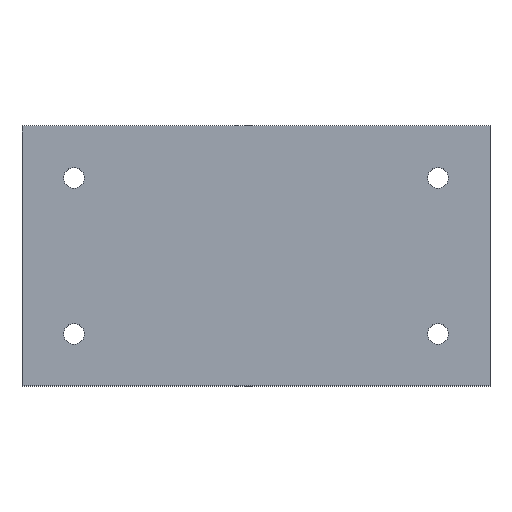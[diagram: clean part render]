
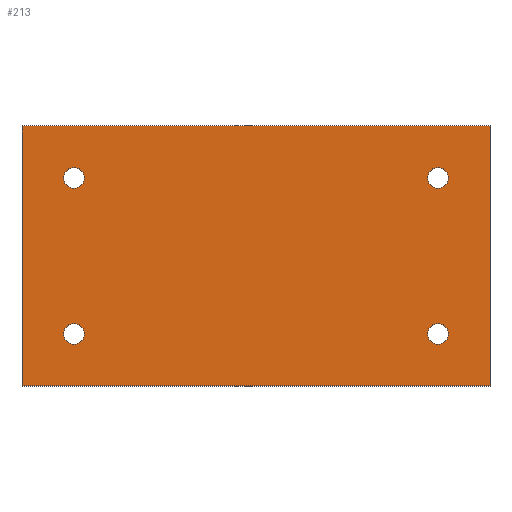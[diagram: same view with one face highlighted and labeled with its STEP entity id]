
A CAD part, top view. The second image highlights one B-rep face of the part: STEP entity #213.
In plain terms, the highlighted planar face has unit normal (0, 0, 1).
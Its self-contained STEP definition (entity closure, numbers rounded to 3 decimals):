
#24 = VERTEX_POINT('',#25);
#25 = CARTESIAN_POINT('',(-45.,-25.,5.));
#32 = PLANE('',#33);
#33 = AXIS2_PLACEMENT_3D('',#34,#35,#36);
#34 = CARTESIAN_POINT('',(-45.,-25.,0.));
#35 = DIRECTION('',(1.,0.,0.));
#36 = DIRECTION('',(0.,0.,1.));
#44 = PLANE('',#45);
#45 = AXIS2_PLACEMENT_3D('',#46,#47,#48);
#46 = CARTESIAN_POINT('',(-45.,-25.,0.));
#47 = DIRECTION('',(0.,1.,0.));
#48 = DIRECTION('',(0.,0.,1.));
#85 = VERTEX_POINT('',#86);
#86 = CARTESIAN_POINT('',(-45.,25.,5.));
#100 = PLANE('',#101);
#101 = AXIS2_PLACEMENT_3D('',#102,#103,#104);
#102 = CARTESIAN_POINT('',(-45.,25.,0.));
#103 = DIRECTION('',(0.,1.,0.));
#104 = DIRECTION('',(0.,0.,1.));
#112 = EDGE_CURVE('',#24,#85,#113,.T.);
#113 = SURFACE_CURVE('',#114,(#118,#125),.PCURVE_S1.);
#114 = LINE('',#115,#116);
#115 = CARTESIAN_POINT('',(-45.,-25.,5.));
#116 = VECTOR('',#117,1.);
#117 = DIRECTION('',(0.,1.,0.));
#118 = PCURVE('',#32,#119);
#119 = DEFINITIONAL_REPRESENTATION('',(#120),#124);
#120 = LINE('',#121,#122);
#121 = CARTESIAN_POINT('',(5.,0.));
#122 = VECTOR('',#123,1.);
#123 = DIRECTION('',(0.,-1.));
#124 = ( GEOMETRIC_REPRESENTATION_CONTEXT(2) 
PARAMETRIC_REPRESENTATION_CONTEXT() REPRESENTATION_CONTEXT('2D SPACE',''
  ) );
#125 = PCURVE('',#126,#131);
#126 = PLANE('',#127);
#127 = AXIS2_PLACEMENT_3D('',#128,#129,#130);
#128 = CARTESIAN_POINT('',(-45.,-25.,5.));
#129 = DIRECTION('',(0.,0.,1.));
#130 = DIRECTION('',(1.,0.,0.));
#131 = DEFINITIONAL_REPRESENTATION('',(#132),#136);
#132 = LINE('',#133,#134);
#133 = CARTESIAN_POINT('',(0.,0.));
#134 = VECTOR('',#135,1.);
#135 = DIRECTION('',(0.,1.));
#136 = ( GEOMETRIC_REPRESENTATION_CONTEXT(2) 
PARAMETRIC_REPRESENTATION_CONTEXT() REPRESENTATION_CONTEXT('2D SPACE',''
  ) );
#165 = EDGE_CURVE('',#24,#166,#168,.T.);
#166 = VERTEX_POINT('',#167);
#167 = CARTESIAN_POINT('',(45.,-25.,5.));
#168 = SURFACE_CURVE('',#169,(#173,#180),.PCURVE_S1.);
#169 = LINE('',#170,#171);
#170 = CARTESIAN_POINT('',(-45.,-25.,5.));
#171 = VECTOR('',#172,1.);
#172 = DIRECTION('',(1.,0.,0.));
#173 = PCURVE('',#44,#174);
#174 = DEFINITIONAL_REPRESENTATION('',(#175),#179);
#175 = LINE('',#176,#177);
#176 = CARTESIAN_POINT('',(5.,0.));
#177 = VECTOR('',#178,1.);
#178 = DIRECTION('',(0.,1.));
#179 = ( GEOMETRIC_REPRESENTATION_CONTEXT(2) 
PARAMETRIC_REPRESENTATION_CONTEXT() REPRESENTATION_CONTEXT('2D SPACE',''
  ) );
#180 = PCURVE('',#126,#181);
#181 = DEFINITIONAL_REPRESENTATION('',(#182),#186);
#182 = LINE('',#183,#184);
#183 = CARTESIAN_POINT('',(0.,0.));
#184 = VECTOR('',#185,1.);
#185 = DIRECTION('',(1.,0.));
#186 = ( GEOMETRIC_REPRESENTATION_CONTEXT(2) 
PARAMETRIC_REPRESENTATION_CONTEXT() REPRESENTATION_CONTEXT('2D SPACE',''
  ) );
#202 = PLANE('',#203);
#203 = AXIS2_PLACEMENT_3D('',#204,#205,#206);
#204 = CARTESIAN_POINT('',(45.,-25.,0.));
#205 = DIRECTION('',(1.,0.,0.));
#206 = DIRECTION('',(0.,0.,1.));
#213 = ADVANCED_FACE('',(#214,#262,#293,#324,#355),#126,.T.);
#214 = FACE_BOUND('',#215,.T.);
#215 = EDGE_LOOP('',(#216,#217,#218,#241));
#216 = ORIENTED_EDGE('',*,*,#112,.F.);
#217 = ORIENTED_EDGE('',*,*,#165,.T.);
#218 = ORIENTED_EDGE('',*,*,#219,.T.);
#219 = EDGE_CURVE('',#166,#220,#222,.T.);
#220 = VERTEX_POINT('',#221);
#221 = CARTESIAN_POINT('',(45.,25.,5.));
#222 = SURFACE_CURVE('',#223,(#227,#234),.PCURVE_S1.);
#223 = LINE('',#224,#225);
#224 = CARTESIAN_POINT('',(45.,-25.,5.));
#225 = VECTOR('',#226,1.);
#226 = DIRECTION('',(0.,1.,0.));
#227 = PCURVE('',#126,#228);
#228 = DEFINITIONAL_REPRESENTATION('',(#229),#233);
#229 = LINE('',#230,#231);
#230 = CARTESIAN_POINT('',(90.,0.));
#231 = VECTOR('',#232,1.);
#232 = DIRECTION('',(0.,1.));
#233 = ( GEOMETRIC_REPRESENTATION_CONTEXT(2) 
PARAMETRIC_REPRESENTATION_CONTEXT() REPRESENTATION_CONTEXT('2D SPACE',''
  ) );
#234 = PCURVE('',#202,#235);
#235 = DEFINITIONAL_REPRESENTATION('',(#236),#240);
#236 = LINE('',#237,#238);
#237 = CARTESIAN_POINT('',(5.,0.));
#238 = VECTOR('',#239,1.);
#239 = DIRECTION('',(0.,-1.));
#240 = ( GEOMETRIC_REPRESENTATION_CONTEXT(2) 
PARAMETRIC_REPRESENTATION_CONTEXT() REPRESENTATION_CONTEXT('2D SPACE',''
  ) );
#241 = ORIENTED_EDGE('',*,*,#242,.F.);
#242 = EDGE_CURVE('',#85,#220,#243,.T.);
#243 = SURFACE_CURVE('',#244,(#248,#255),.PCURVE_S1.);
#244 = LINE('',#245,#246);
#245 = CARTESIAN_POINT('',(-45.,25.,5.));
#246 = VECTOR('',#247,1.);
#247 = DIRECTION('',(1.,0.,0.));
#248 = PCURVE('',#126,#249);
#249 = DEFINITIONAL_REPRESENTATION('',(#250),#254);
#250 = LINE('',#251,#252);
#251 = CARTESIAN_POINT('',(0.,50.));
#252 = VECTOR('',#253,1.);
#253 = DIRECTION('',(1.,0.));
#254 = ( GEOMETRIC_REPRESENTATION_CONTEXT(2) 
PARAMETRIC_REPRESENTATION_CONTEXT() REPRESENTATION_CONTEXT('2D SPACE',''
  ) );
#255 = PCURVE('',#100,#256);
#256 = DEFINITIONAL_REPRESENTATION('',(#257),#261);
#257 = LINE('',#258,#259);
#258 = CARTESIAN_POINT('',(5.,0.));
#259 = VECTOR('',#260,1.);
#260 = DIRECTION('',(0.,1.));
#261 = ( GEOMETRIC_REPRESENTATION_CONTEXT(2) 
PARAMETRIC_REPRESENTATION_CONTEXT() REPRESENTATION_CONTEXT('2D SPACE',''
  ) );
#262 = FACE_BOUND('',#263,.T.);
#263 = EDGE_LOOP('',(#264));
#264 = ORIENTED_EDGE('',*,*,#265,.F.);
#265 = EDGE_CURVE('',#266,#266,#268,.T.);
#266 = VERTEX_POINT('',#267);
#267 = CARTESIAN_POINT('',(-33.,-15.,5.));
#268 = SURFACE_CURVE('',#269,(#274,#281),.PCURVE_S1.);
#269 = CIRCLE('',#270,2.);
#270 = AXIS2_PLACEMENT_3D('',#271,#272,#273);
#271 = CARTESIAN_POINT('',(-35.,-15.,5.));
#272 = DIRECTION('',(0.,0.,1.));
#273 = DIRECTION('',(1.,0.,-0.));
#274 = PCURVE('',#126,#275);
#275 = DEFINITIONAL_REPRESENTATION('',(#276),#280);
#276 = CIRCLE('',#277,2.);
#277 = AXIS2_PLACEMENT_2D('',#278,#279);
#278 = CARTESIAN_POINT('',(10.,10.));
#279 = DIRECTION('',(1.,0.));
#280 = ( GEOMETRIC_REPRESENTATION_CONTEXT(2) 
PARAMETRIC_REPRESENTATION_CONTEXT() REPRESENTATION_CONTEXT('2D SPACE',''
  ) );
#281 = PCURVE('',#282,#287);
#282 = CYLINDRICAL_SURFACE('',#283,2.);
#283 = AXIS2_PLACEMENT_3D('',#284,#285,#286);
#284 = CARTESIAN_POINT('',(-35.,-15.,-1.));
#285 = DIRECTION('',(0.,0.,1.));
#286 = DIRECTION('',(1.,0.,0.));
#287 = DEFINITIONAL_REPRESENTATION('',(#288),#292);
#288 = LINE('',#289,#290);
#289 = CARTESIAN_POINT('',(0.,6.));
#290 = VECTOR('',#291,1.);
#291 = DIRECTION('',(1.,0.));
#292 = ( GEOMETRIC_REPRESENTATION_CONTEXT(2) 
PARAMETRIC_REPRESENTATION_CONTEXT() REPRESENTATION_CONTEXT('2D SPACE',''
  ) );
#293 = FACE_BOUND('',#294,.T.);
#294 = EDGE_LOOP('',(#295));
#295 = ORIENTED_EDGE('',*,*,#296,.F.);
#296 = EDGE_CURVE('',#297,#297,#299,.T.);
#297 = VERTEX_POINT('',#298);
#298 = CARTESIAN_POINT('',(37.,-15.,5.));
#299 = SURFACE_CURVE('',#300,(#305,#312),.PCURVE_S1.);
#300 = CIRCLE('',#301,2.);
#301 = AXIS2_PLACEMENT_3D('',#302,#303,#304);
#302 = CARTESIAN_POINT('',(35.,-15.,5.));
#303 = DIRECTION('',(0.,0.,1.));
#304 = DIRECTION('',(1.,0.,-0.));
#305 = PCURVE('',#126,#306);
#306 = DEFINITIONAL_REPRESENTATION('',(#307),#311);
#307 = CIRCLE('',#308,2.);
#308 = AXIS2_PLACEMENT_2D('',#309,#310);
#309 = CARTESIAN_POINT('',(80.,10.));
#310 = DIRECTION('',(1.,0.));
#311 = ( GEOMETRIC_REPRESENTATION_CONTEXT(2) 
PARAMETRIC_REPRESENTATION_CONTEXT() REPRESENTATION_CONTEXT('2D SPACE',''
  ) );
#312 = PCURVE('',#313,#318);
#313 = CYLINDRICAL_SURFACE('',#314,2.);
#314 = AXIS2_PLACEMENT_3D('',#315,#316,#317);
#315 = CARTESIAN_POINT('',(35.,-15.,-1.));
#316 = DIRECTION('',(0.,0.,1.));
#317 = DIRECTION('',(1.,0.,0.));
#318 = DEFINITIONAL_REPRESENTATION('',(#319),#323);
#319 = LINE('',#320,#321);
#320 = CARTESIAN_POINT('',(0.,6.));
#321 = VECTOR('',#322,1.);
#322 = DIRECTION('',(1.,0.));
#323 = ( GEOMETRIC_REPRESENTATION_CONTEXT(2) 
PARAMETRIC_REPRESENTATION_CONTEXT() REPRESENTATION_CONTEXT('2D SPACE',''
  ) );
#324 = FACE_BOUND('',#325,.T.);
#325 = EDGE_LOOP('',(#326));
#326 = ORIENTED_EDGE('',*,*,#327,.F.);
#327 = EDGE_CURVE('',#328,#328,#330,.T.);
#328 = VERTEX_POINT('',#329);
#329 = CARTESIAN_POINT('',(-33.,15.,5.));
#330 = SURFACE_CURVE('',#331,(#336,#343),.PCURVE_S1.);
#331 = CIRCLE('',#332,2.);
#332 = AXIS2_PLACEMENT_3D('',#333,#334,#335);
#333 = CARTESIAN_POINT('',(-35.,15.,5.));
#334 = DIRECTION('',(0.,0.,1.));
#335 = DIRECTION('',(1.,0.,-0.));
#336 = PCURVE('',#126,#337);
#337 = DEFINITIONAL_REPRESENTATION('',(#338),#342);
#338 = CIRCLE('',#339,2.);
#339 = AXIS2_PLACEMENT_2D('',#340,#341);
#340 = CARTESIAN_POINT('',(10.,40.));
#341 = DIRECTION('',(1.,0.));
#342 = ( GEOMETRIC_REPRESENTATION_CONTEXT(2) 
PARAMETRIC_REPRESENTATION_CONTEXT() REPRESENTATION_CONTEXT('2D SPACE',''
  ) );
#343 = PCURVE('',#344,#349);
#344 = CYLINDRICAL_SURFACE('',#345,2.);
#345 = AXIS2_PLACEMENT_3D('',#346,#347,#348);
#346 = CARTESIAN_POINT('',(-35.,15.,-1.));
#347 = DIRECTION('',(0.,0.,1.));
#348 = DIRECTION('',(1.,0.,0.));
#349 = DEFINITIONAL_REPRESENTATION('',(#350),#354);
#350 = LINE('',#351,#352);
#351 = CARTESIAN_POINT('',(0.,6.));
#352 = VECTOR('',#353,1.);
#353 = DIRECTION('',(1.,0.));
#354 = ( GEOMETRIC_REPRESENTATION_CONTEXT(2) 
PARAMETRIC_REPRESENTATION_CONTEXT() REPRESENTATION_CONTEXT('2D SPACE',''
  ) );
#355 = FACE_BOUND('',#356,.T.);
#356 = EDGE_LOOP('',(#357));
#357 = ORIENTED_EDGE('',*,*,#358,.F.);
#358 = EDGE_CURVE('',#359,#359,#361,.T.);
#359 = VERTEX_POINT('',#360);
#360 = CARTESIAN_POINT('',(37.,15.,5.));
#361 = SURFACE_CURVE('',#362,(#367,#374),.PCURVE_S1.);
#362 = CIRCLE('',#363,2.);
#363 = AXIS2_PLACEMENT_3D('',#364,#365,#366);
#364 = CARTESIAN_POINT('',(35.,15.,5.));
#365 = DIRECTION('',(0.,0.,1.));
#366 = DIRECTION('',(1.,0.,-0.));
#367 = PCURVE('',#126,#368);
#368 = DEFINITIONAL_REPRESENTATION('',(#369),#373);
#369 = CIRCLE('',#370,2.);
#370 = AXIS2_PLACEMENT_2D('',#371,#372);
#371 = CARTESIAN_POINT('',(80.,40.));
#372 = DIRECTION('',(1.,0.));
#373 = ( GEOMETRIC_REPRESENTATION_CONTEXT(2) 
PARAMETRIC_REPRESENTATION_CONTEXT() REPRESENTATION_CONTEXT('2D SPACE',''
  ) );
#374 = PCURVE('',#375,#380);
#375 = CYLINDRICAL_SURFACE('',#376,2.);
#376 = AXIS2_PLACEMENT_3D('',#377,#378,#379);
#377 = CARTESIAN_POINT('',(35.,15.,-1.));
#378 = DIRECTION('',(0.,0.,1.));
#379 = DIRECTION('',(1.,0.,0.));
#380 = DEFINITIONAL_REPRESENTATION('',(#381),#385);
#381 = LINE('',#382,#383);
#382 = CARTESIAN_POINT('',(0.,6.));
#383 = VECTOR('',#384,1.);
#384 = DIRECTION('',(1.,0.));
#385 = ( GEOMETRIC_REPRESENTATION_CONTEXT(2) 
PARAMETRIC_REPRESENTATION_CONTEXT() REPRESENTATION_CONTEXT('2D SPACE',''
  ) );
